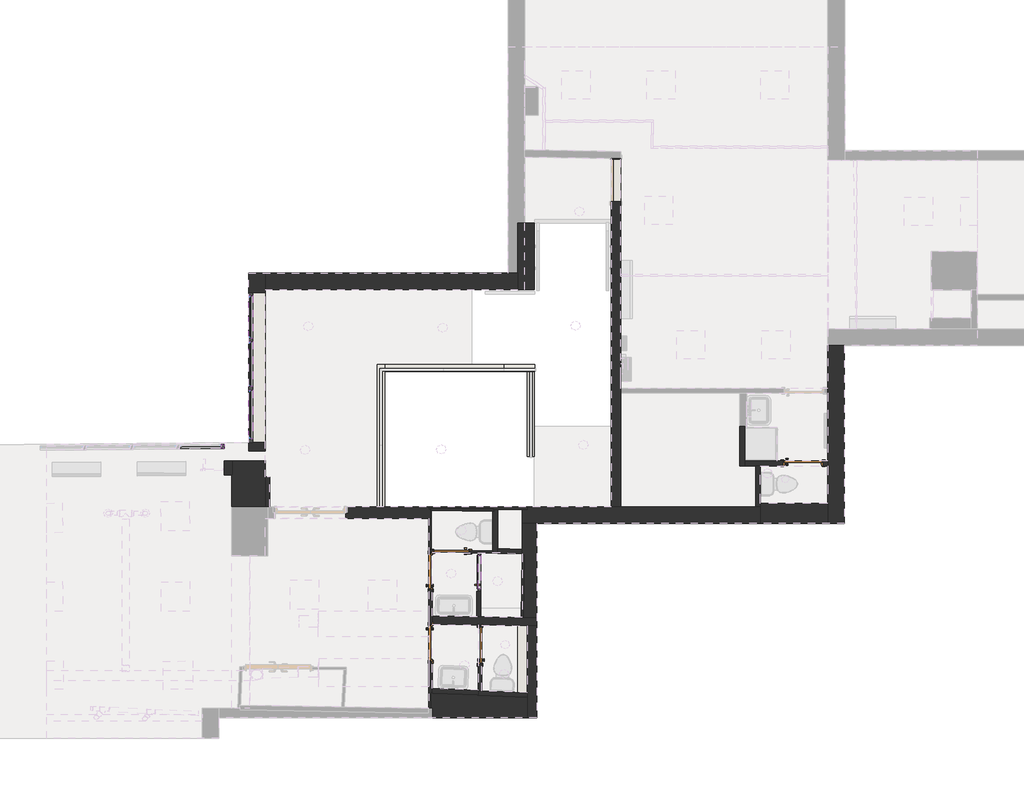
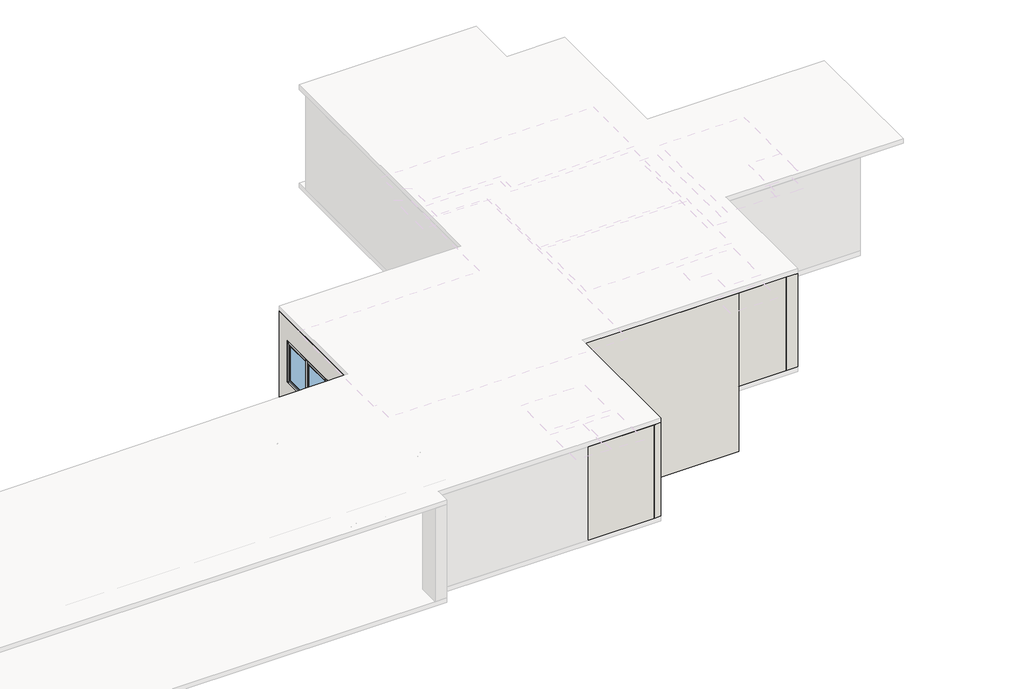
# One storey, part 3 of 8: 34 walls, 17 members, 6 doors, 3 windows.
"""IFC4 building model written with IfcOpenShell, lengths in millimetres."""

from ifc_helpers import new_model, si_unit, frame, origin, origin_with_axes, place, context, project, spatial, polyline, outline, extrude, faceted_brep, transform, mapped, element, save
from components import door_curtain_wall_single_glass_door_curtain_wall_single_83725fa1, door_36be590d, door_98bb46f0, door_880b1680, door_e4af89d0, door_20e234fa, member_7120eb7e, member_94745b14, member_0174ca3d, member_e39cbc11, member_24e91046, member_16dd25dd, member_4863c741, member_04a255ce, member_bc283e03, member_303bf657, curtain_wall_awning_curtain_wall_awning_2_1327c69f, curtain_wall_awning_curtain_wall_awning_2_5fe8b67b, curtain_wall_awning_curtain_wall_awning_2_be5c5add

model = new_model("IFC4")

# Units and contexts
model_context = context("Model", 3, world=origin())
ifc_project = project(units=[si_unit("LENGTHUNIT", "METRE", prefix="MILLI")], contexts=[model_context])

# Site, building, storey
site = spatial("IfcSite", under=ifc_project)
building = spatial("IfcBuilding", under=site)
storey = spatial("IfcBuildingStorey", under=building, Name="GFL", Elevation=0.0)

# Doors
placement = place(None, origin())
door_curtain_wall_single_glass_door_curtain_wall_single_shape = door_curtain_wall_single_glass_door_curtain_wall_single_83725fa1(model_context)
element("IfcDoor", 1, ObjectType="Door-Curtain-Wall-Single-Glass : Door-Curtain-Wall-Single-Glass", at=placement, inside=storey, context=model_context, shape_type="MappedRepresentation", body=[
    mapped(door_curtain_wall_single_glass_door_curtain_wall_single_shape, transform((-14157.9331047, 4549.3822669, 321.7526943), x_axis=(0.0, 1.0, 0.0), y_axis=(-1.0, 0.0, 0.0), z_axis=(0.0, 0.0, 1.0))),
])
door_shape = door_36be590d(model_context)
element("IfcDoor", 2, ObjectType="Door-Interior-Single-Flush_Panel-Wood : 2'5\" x 5'9\"", at=placement, inside=storey, context=model_context, shape_type="MappedRepresentation", body=[
    mapped(door_shape, transform((-14760.5386194, 4996.406889, 0.0), x_axis=(-0.999943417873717, 0.010637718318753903, 0.0), y_axis=(-0.010637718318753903, -0.999943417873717, 0.0), z_axis=(0.0, 0.0, 1.0))),
])
door_2_shape = door_98bb46f0(model_context)
element("IfcDoor", 3, ObjectType="Door-Interior-Single-Flush_Panel-Wood : 2'5\" x 5'9\"", at=placement, inside=storey, context=model_context, shape_type="MappedRepresentation", body=[
    mapped(door_2_shape, transform((-15206.7895713, 4564.5454184, 0.0), x_axis=(0.0, 1.0, 0.0), y_axis=(-1.0, 0.0, 0.0), z_axis=(0.0, 0.0, 1.0))),
])
door_3_shape = door_880b1680(model_context)
element("IfcDoor", 4, ObjectType="Door-Interior-Single-Flush_Panel-Wood : 2'5\" x 5'9\"", at=placement, inside=storey, context=model_context, shape_type="MappedRepresentation", body=[
    mapped(door_3_shape, transform((-15206.7895713, 3027.8454184, 0.0), x_axis=(0.0, -1.0, 0.0), y_axis=(1.0, 0.0, 0.0), z_axis=(0.0, 0.0, 1.0))),
])
door_4_shape = door_e4af89d0(model_context)
element("IfcDoor", 5, ObjectType="Door-Interior-Single-Flush_Panel-Wood : 2'8\" x 6'6\" 2", at=placement, inside=storey, context=model_context, shape_type="MappedRepresentation", body=[
    mapped(door_4_shape, transform((-14140.6305738, 2978.6506962, 0.0), x_axis=(0.0, 1.0, 0.0), y_axis=(-1.0, 0.0, 0.0), z_axis=(0.0, 0.0, 1.0))),
])
door_5_shape = door_20e234fa(model_context)
element("IfcDoor", 6, ObjectType="Door-Interior-Single-Flush_Panel-Wood : 2'8\" x 6'8\"", at=placement, inside=storey, context=model_context, shape_type="MappedRepresentation", body=[
    mapped(door_5_shape, transform((-7216.3227955, 6885.6360317, 0.0), x_axis=(1.0, 0.0, 0.0), y_axis=(0.0, 1.0, 0.0), z_axis=(0.0, 0.0, 1.0))),
])

# Members
member_shape = member_7120eb7e(model_context)
element("IfcMember", 7, ObjectType="Rectangular Mullion : 1\" x 2\" rectangular", at=placement, inside=storey, context=model_context, shape_type="MappedRepresentation", body=[
    mapped(member_shape, transform((-14157.9331047, 4910.2817949, 1959.4322848), x_axis=(0.0, 0.0, 1.0), y_axis=(1.0, 0.0, 0.0), z_axis=(0.0, 1.0, 0.0))),
])
element("IfcMember", 8, ObjectType="Rectangular Mullion : 1\" x 2\" rectangular", at=placement, inside=storey, context=model_context, shape_type="MappedRepresentation", body=[
    mapped(member_shape, transform((-14157.9331047, 4188.4827389, 270.9526943), x_axis=(0.0, 0.0, -1.0), y_axis=(1.0, 0.0, 0.0), z_axis=(0.0, -1.0, 0.0))),
])
member_2_shape = member_94745b14(model_context)
element("IfcMember", 9, ObjectType="Rectangular Mullion : 1\" x 2\" rectangular", at=placement, inside=storey, context=model_context, shape_type="MappedRepresentation", body=[
    mapped(member_2_shape, transform((-14157.9331047, 4137.6827389, 1959.4322848), x_axis=(0.0, -1.0, 0.0), y_axis=(1.0, 0.0, 0.0), z_axis=(0.0, 0.0, 1.0))),
])
element("IfcMember", 10, ObjectType="Rectangular Mullion : 1\" x 2\" rectangular", at=placement, inside=storey, context=model_context, shape_type="MappedRepresentation", body=[
    mapped(member_2_shape, transform((-14157.9331047, 4961.0817949, 270.9526943), x_axis=(0.0, 1.0, 0.0), y_axis=(1.0, 0.0, 0.0), z_axis=(0.0, 0.0, -1.0))),
])
member_3_shape = member_0174ca3d(model_context)
element("IfcMember", 11, ObjectType="Rectangular Mullion : 2.5\" x 5\" rectangular 2", at=placement, inside=storey, context=model_context, shape_type="MappedRepresentation", body=[
    mapped(member_3_shape, transform((-19632.5108173, 7246.8307722, 1519.2701837), x_axis=(0.999958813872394, 0.009075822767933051, 0.0), y_axis=(-0.009075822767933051, 0.999958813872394, 0.0), z_axis=(0.0, 0.0, 1.0))),
])
member_4_shape = member_e39cbc11(model_context)
element("IfcMember", 12, ObjectType="Rectangular Mullion : 2.5\" x 5\" rectangular 2", at=placement, inside=storey, context=model_context, shape_type="MappedRepresentation", body=[
    mapped(member_4_shape, transform((-19702.3579404, 7246.196826, 941.5427435), x_axis=(0.0, 0.0, -1.0), y_axis=(-0.009075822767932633, 0.999958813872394, 0.0), z_axis=(0.9999588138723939, 0.009075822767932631, 0.0))),
])
member_5_shape = member_24e91046(model_context)
element("IfcMember", 13, ObjectType="Rectangular Mullion : 2.5\" x 5\" rectangular 2", at=placement, inside=storey, context=model_context, shape_type="MappedRepresentation", body=[
    mapped(member_5_shape, transform((-19632.5108173, 7246.8307722, 2291.8788214), x_axis=(0.999958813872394, 0.009075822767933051, 0.0), y_axis=(-0.009075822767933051, 0.999958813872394, 0.0), z_axis=(0.0, 0.0, 1.0))),
])
member_6_shape = member_16dd25dd(model_context)
element("IfcMember", 14, ObjectType="Rectangular Mullion : 2.5\" x 5\" rectangular 2", at=placement, inside=storey, context=model_context, shape_type="MappedRepresentation", body=[
    mapped(member_6_shape, transform((-19067.6367691, 10483.6745008, 2317.4063228), x_axis=(0.0, 0.0, 1.0), y_axis=(1.0, 0.0, 0.0), z_axis=(0.0, 1.0, 0.0))),
])
element("IfcMember", 15, ObjectType="Rectangular Mullion : 2.5\" x 5\" rectangular 2", at=placement, inside=storey, context=model_context, shape_type="MappedRepresentation", body=[
    mapped(member_6_shape, transform((-19067.6367691, 9566.9256959, 966.5683954), x_axis=(0.0, 0.0, -1.0), y_axis=(1.0, 0.0, 0.0), z_axis=(0.0, -1.0, 0.0))),
])
member_7_shape = member_4863c741(model_context)
element("IfcMember", 16, ObjectType="Rectangular Mullion : 2.5\" x 5\" rectangular 2", at=placement, inside=storey, context=model_context, shape_type="MappedRepresentation", body=[
    mapped(member_7_shape, transform((-19067.6367691, 7405.5768909, 966.5683954), x_axis=(0.0, 0.0, -1.0), y_axis=(1.0, 0.0, 0.0), z_axis=(0.0, -1.0, 0.0))),
])
member_8_shape = member_04a255ce(model_context)
element("IfcMember", 17, ObjectType="Rectangular Mullion : 2.5\" x 5\" rectangular 2", at=placement, inside=storey, context=model_context, shape_type="MappedRepresentation", body=[
    mapped(member_8_shape, transform((-19067.6367691, 8529.5268909, 966.5683954), x_axis=(0.0, 0.0, -1.0), y_axis=(1.0, 0.0, 0.0), z_axis=(0.0, -1.0, 0.0))),
])
element("IfcMember", 18, ObjectType="Rectangular Mullion : 2.5\" x 5\" rectangular 2", at=placement, inside=storey, context=model_context, shape_type="MappedRepresentation", body=[
    mapped(member_7_shape, transform((-19067.6367691, 8459.6768909, 2317.4063228), x_axis=(0.0, 0.0, 1.0), y_axis=(1.0, 0.0, 0.0), z_axis=(0.0, 1.0, 0.0))),
])
element("IfcMember", 19, ObjectType="Rectangular Mullion : 2.5\" x 5\" rectangular 2", at=placement, inside=storey, context=model_context, shape_type="MappedRepresentation", body=[
    mapped(member_8_shape, transform((-19067.6367691, 9497.0756959, 2317.4063228), x_axis=(0.0, 0.0, 1.0), y_axis=(1.0, 0.0, 0.0), z_axis=(0.0, 1.0, 0.0))),
])
member_9_shape = member_bc283e03(model_context)
element("IfcMember", 20, ObjectType="Rectangular Mullion : 2.5\" x 5\" rectangular 2", at=placement, inside=storey, context=model_context, shape_type="MappedRepresentation", body=[
    mapped(member_9_shape, transform((-19067.6367691, 7335.7268909, 2317.4063228), x_axis=(0.0, -1.0, 0.0), y_axis=(1.0, 0.0, 0.0), z_axis=(0.0, 0.0, 1.0))),
])
element("IfcMember", 21, ObjectType="Rectangular Mullion : 2.5\" x 5\" rectangular 2", at=placement, inside=storey, context=model_context, shape_type="MappedRepresentation", body=[
    mapped(member_9_shape, transform((-19067.6367691, 10553.5245008, 966.5683954), x_axis=(0.0, 1.0, 0.0), y_axis=(1.0, 0.0, 0.0), z_axis=(0.0, 0.0, -1.0))),
])
member_10_shape = member_303bf657(model_context)
element("IfcMember", 22, ObjectType="Rectangular Mullion : 2.5\" x 5\" rectangular 2", at=placement, inside=storey, context=model_context, shape_type="MappedRepresentation", body=[
    mapped(member_10_shape, transform((-19067.6367691, 8491.4268909, 966.5683954), x_axis=(0.0, 1.0, 0.0), y_axis=(1.0, 0.0, 0.0), z_axis=(0.0, 0.0, -1.0))),
])
element("IfcMember", 23, ObjectType="Rectangular Mullion : 2.5\" x 5\" rectangular 2", at=placement, inside=storey, context=model_context, shape_type="MappedRepresentation", body=[
    mapped(member_10_shape, transform((-19067.6367691, 9528.8256959, 966.5683954), x_axis=(0.0, 1.0, 0.0), y_axis=(1.0, 0.0, 0.0), z_axis=(0.0, 0.0, -1.0))),
])

# Walls
element("IfcWall", 24, ObjectType="Generic - 12\"", at=placement, inside=storey, context=model_context, shape_type="Brep", body=[
    faceted_brep([(-13235.1145713, 5589.9585448, 3028.95), (-13235.1145713, 5589.9585448, 0.0), (-13235.1145713, 5040.4725323, 0.0), (-13235.1145713, 4938.824475, 0.0), (-13235.1145713, 4911.3165544, 0.0), (-13235.1145713, 4911.3165544, 3028.95), (-13235.1145713, 4938.824475, 3028.95), (-13235.1145713, 5040.4725323, 3028.95), (-12930.3145713, 3570.200863, 0.0), (-12930.3145713, 5589.9585448, 0.0), (-12930.3145713, 5589.9585448, 3028.95), (-12930.3145713, 3570.200863, 3028.95), (-13207.642979, 3574.4684236, 0.0), (-13184.0376044, 4926.7396906, 0.0), (-13234.8298664, 4927.6263251, 0.0), (-13207.642979, 3574.4684236, 3028.95), (-13234.8298664, 4927.6263251, 3028.95), (-13184.0376044, 4926.7396906, 3028.95)], [[[0, 1, 2, 3, 4, 5, 6, 7]], [[8, 9, 10, 11]], [[9, 8, 12, 13, 14, 4, 3, 2, 1]], [[1, 0, 10, 9]], [[8, 11, 15, 12]], [[14, 16, 5, 4]], [[17, 13, 12, 15]], [[16, 14, 13, 17]], [[11, 10, 0, 7, 6, 5, 16, 17, 15]]]),
])
element("IfcWall", 25, ObjectType="Generic - 14\"", at=placement, inside=storey, context=model_context, shape_type="Brep", body=[
    faceted_brep([(-12977.6791902, 10617.0245008, -983.6727273), (-12977.6791902, 10740.5508294, -983.6727273), (-12977.6791902, 12039.4245008, -145.3088121), (-12977.6791902, 12039.4245008, 3028.95), (-12977.6791902, 10617.0245008, 3028.95), (-13333.2791902, 10617.0245008, -983.6727273), (-13333.2791902, 10617.0245008, -806.6223107), (-13333.2791902, 10617.0245008, 3028.95), (-13333.2791902, 10972.6245008, 3028.95), (-13333.2791902, 12039.4245008, 3028.95), (-13333.2791902, 12039.4245008, 0.0), (-13333.2791902, 12039.4245008, -145.3088121), (-13333.2791902, 10740.5508294, -983.6727273), (-13180.8791902, 12039.4245008, 3028.95)], [[[0, 1, 2, 3, 4]], [[5, 6, 7, 8, 9, 10, 11, 12]], [[4, 3, 13, 9, 8, 7]], [[1, 0, 5, 12]], [[3, 2, 11, 10, 9, 13]], [[0, 4, 7, 6, 5]], [[2, 1, 12, 11]]]),
])
element("IfcWall", 26, ObjectType="Generic - 14\"", at=placement, inside=storey, context=model_context, shape_type="Brep", body=[
    faceted_brep([(-6682.9227955, 9413.6950658, 0.0), (-6682.9227955, 8491.1857327, 0.0), (-6682.9227955, 8389.5857327, 0.0), (-6682.9227955, 6933.2610317, 0.0), (-6682.9227955, 6831.6610317, 0.0), (-6682.9227955, 6021.7585448, 0.0), (-6682.9227955, 5589.9585448, 0.0), (-6682.9227955, 5589.9585448, 3028.95), (-6682.9227955, 6021.7585448, 3028.95), (-6682.9227955, 6831.6610317, 3028.95), (-6682.9227955, 6933.2610317, 3028.95), (-6682.9227955, 8389.5857327, 3028.95), (-6682.9227955, 8491.1857327, 3028.95), (-6682.9227955, 9413.6950658, 3028.95), (-6327.3227955, 9413.6950658, 0.0), (-6327.3227955, 9413.6950658, 3028.95), (-6327.3227955, 5589.9585448, 3028.95), (-6327.3227955, 5589.9585448, 0.0)], [[[0, 1, 2, 3, 4, 5, 6, 7, 8, 9, 10, 11, 12, 13]], [[14, 15, 16, 17]], [[0, 13, 15, 14]], [[7, 6, 17, 16]], [[6, 5, 4, 3, 2, 1, 0, 14, 17]], [[13, 12, 11, 10, 9, 8, 7, 16, 15]]]),
])
element("IfcWall", 27, ObjectType="Generic - 14\"", at=placement, inside=storey, context=model_context, shape_type="Brep", body=[
    faceted_brep([(-19112.0867691, 10972.6245008, 3028.95), (-19112.0867691, 10972.6245008, -152.4), (-19112.0867691, 7334.1131432, -152.4), (-19112.0867691, 7334.1131432, 0.0), (-19112.0867691, 7145.3261276, 0.0), (-19112.0867691, 7145.3261276, 3028.95), (-19112.0867691, 7334.1131432, 3028.95), (-19112.0867691, 10553.5245008, 2317.4063228), (-19112.0867691, 7335.7268909, 2317.4063228), (-19112.0867691, 7335.7268909, 966.5683954), (-19112.0867691, 10553.5245008, 966.5683954), (-18756.4867691, 10972.6245008, 3028.95), (-18756.4867691, 10617.0245008, 3028.95), (-18756.4867691, 7337.3406387, 3028.95), (-18756.4867691, 7145.3261276, 3028.95), (-18756.4867691, 7145.3261276, 0.0), (-18756.4867691, 7337.3406387, 0.0), (-18756.4867691, 10617.0245008, 0.0), (-18756.4867691, 10617.0245008, -152.4), (-18756.4867691, 10972.6245008, -152.4), (-18756.4867691, 7335.7268909, 2317.4063228), (-18756.4867691, 7337.3406387, 2317.4063228), (-18756.4867691, 10553.5245008, 2317.4063228), (-18756.4867691, 10553.5245008, 966.5683954), (-18756.4867691, 7337.3406387, 966.5683954), (-18756.4867691, 7335.7268909, 966.5683954), (-19067.6367691, 10617.0245008, -152.4), (-19067.6367691, 7334.5165801, -152.4), (-18934.2867691, 7335.7268909, 2317.4063228), (-18934.2867691, 7335.7268909, 966.5683954), (-19067.6367691, 7334.5165801, 0.0), (-19067.6367691, 10617.0245008, 0.0)], [[[0, 1, 2, 3, 4, 5, 6], [7, 8, 9, 10]], [[11, 12, 13, 14, 15, 16, 17, 18, 19], [20, 21, 22, 23, 24, 25]], [[1, 19, 18, 26, 27, 2]], [[14, 5, 4, 15]], [[1, 0, 11, 19]], [[7, 22, 21, 20, 28, 8]], [[22, 7, 10, 23]], [[23, 10, 9, 29, 25, 24]], [[8, 28, 20, 25, 29, 9]], [[14, 13, 12, 11, 0, 6, 5]], [[30, 31, 17, 16, 15, 4, 3]], [[27, 30, 3, 2]], [[31, 30, 27, 26]], [[31, 26, 18, 17]]]),
])
element("IfcWall", 28, ObjectType="Generic - 14\"", at=placement, inside=storey, context=model_context, shape_type="Brep", body=[
    faceted_brep([(-18756.4867691, 10617.0245008, -152.4), (-14245.7054637, 10617.0245008, -152.4), (-13333.2791902, 10617.0245008, -806.6223107), (-13333.2791902, 10617.0245008, 3028.95), (-18756.4867691, 10617.0245008, 3028.95), (-18756.4867691, 10617.0245008, 0.0), (-18756.4867691, 10972.6245008, -152.4), (-18756.4867691, 10972.6245008, 3028.95), (-13536.4791902, 10972.6245008, 3028.95), (-13333.2791902, 10972.6245008, 3028.95), (-13333.2791902, 10972.6245008, -806.6223107), (-14245.7054637, 10972.6245008, -152.4)], [[[0, 1, 2, 3, 4, 5]], [[6, 7, 8, 9, 10, 11]], [[0, 5, 4, 7, 6]], [[4, 3, 9, 8, 7]], [[3, 2, 10, 9]], [[1, 0, 6, 11]], [[2, 1, 11, 10]]]),
])
element("IfcWall", 29, ObjectType="Generic - 14\"", at=placement, inside=storey, context=model_context, shape_type="Brep", body=[
    faceted_brep([(-13235.1145713, 5589.9585448, -2108.2), (-8132.4684097, 5589.9585448, -2108.2), (-8132.4684097, 5589.9585448, -152.4), (-8132.4684097, 5589.9585448, 0.0), (-8132.4684097, 5589.9585448, 3028.95), (-12930.3145713, 5589.9585448, 3028.95), (-13235.1145713, 5589.9585448, 3028.95), (-13235.1145713, 5589.9585448, 0.0), (-8132.4684097, 5945.5585448, -2108.2), (-13235.1145713, 5945.5585448, -2108.2), (-13235.1145713, 5945.5585448, 0.0), (-13133.5145713, 5945.5585448, 0.0), (-13133.5145713, 5945.5585448, 3028.95), (-11333.1527068, 5945.5585448, 3028.95), (-11129.9527068, 5945.5585448, 3028.95), (-8234.0684097, 5945.5585448, 3028.95), (-8132.4684097, 5945.5585448, 3028.95), (-8132.4684097, 5945.5585448, 0.0), (-8132.4684097, 5945.5585448, -152.4), (-13133.5145713, 5894.7585448, 3028.95), (-13235.1145713, 5894.7585448, 3028.95), (-13235.1145713, 5894.7585448, 0.0), (-13133.5145713, 5894.7585448, 0.0)], [[[0, 1, 2, 3, 4, 5, 6, 7]], [[8, 9, 10, 11, 12, 13, 14, 15, 16, 17, 18]], [[1, 0, 9, 8]], [[4, 3, 2, 1, 8, 18, 17, 16]], [[6, 5, 4, 16, 15, 14, 13, 12, 19, 20]], [[0, 7, 6, 20, 21, 10, 9]], [[19, 22, 21, 20]], [[22, 11, 10, 21]], [[22, 19, 12, 11]]]),
])
element("IfcWall", 30, ObjectType="Generic - 17\"", at=placement, inside=storey, context=model_context, shape_type="Brep", body=[
    faceted_brep([(-8132.4684097, 5589.9585448, 0.0), (-6682.9227955, 5589.9585448, 0.0), (-6682.9227955, 5589.9585448, 3028.95), (-8132.4684097, 5589.9585448, 3028.95), (-8132.4684097, 6021.7585448, 0.0), (-8132.4684097, 6021.7585448, 3028.95), (-6682.9227955, 6021.7585448, 3028.95), (-6682.9227955, 6021.7585448, 0.0), (-8132.4684097, 5945.5585448, 0.0), (-8132.4684097, 5945.5585448, 3028.95)], [[[0, 1, 2, 3]], [[4, 5, 6, 7]], [[1, 0, 8, 4, 7]], [[2, 1, 7, 6]], [[0, 3, 9, 5, 4, 8]], [[3, 2, 6, 5, 9]]]),
])
element("IfcWall", 31, ObjectType="Generic - 19.5\" 2", at=placement, inside=storey, context=model_context, shape_type="SweptSolid", body=[
    extrude(outline(polyline([(-13133.5145713, 1859.359379), (-13133.5145713, 1421.2954184), (-15165.5145713, 1421.2954184), (-15165.5145713, 1624.4954184), (-15190.9145713, 1624.4954184), (-15190.9145713, 1954.6954184), (-15165.5145713, 1954.6954184), (-15165.5145713, 1949.3529579), (-14203.125504, 1909.7379648), (-14203.386448, 1903.3987061), (-13133.5145713, 1859.359379)])), origin_with_axes(), (0.0, 0.0, 1.0), 3028.95),
])
element("IfcWall", 32, ObjectType="Generic - 2\"", at=placement, inside=storey, context=model_context, shape_type="SweptSolid", body=[
    extrude(outline(polyline([(-15190.9145713, 5023.2116238), (-15241.7145713, 5023.7520505), (-15241.7145713, 5704.2585448), (-15216.3145713, 5704.2585448), (-15216.3145713, 5894.7585448), (-15210.0812826, 5894.7585448), (-15210.4078624, 5876.0488015), (-15190.9145713, 5875.7085448), (-15190.9145713, 5023.2116238)])), origin_with_axes(), (0.0, 0.0, 1.0), 3028.95),
])
element("IfcWall", 33, ObjectType="Generic - 2\"", at=placement, inside=storey, context=model_context, shape_type="Brep", body=[
    faceted_brep([(-15241.7145713, 5894.7585448, 3028.95), (-15241.7145713, 5894.7585448, 0.0), (-15216.3145713, 5894.7585448, 0.0), (-15210.0812826, 5894.7585448, 0.0), (-15210.0812826, 5894.7585448, 3028.95), (-15216.3145713, 5894.7585448, 3028.95), (-13133.5145713, 5894.7585448, 0.0), (-13133.5145713, 5894.7585448, 3028.95), (-13235.1145713, 5894.7585448, 3028.95), (-13768.5145713, 5894.7585448, 3028.95), (-13851.2135824, 5894.7585448, 3028.95), (-13851.2135824, 5894.7585448, 0.0), (-13768.5145713, 5894.7585448, 0.0), (-13235.1145713, 5894.7585448, 0.0), (-13133.5145713, 5945.5585448, 0.0), (-13235.1145713, 5945.5585448, 0.0), (-15241.7145713, 5945.5585448, 0.0), (-15241.7145713, 5945.5585448, 3028.95), (-13133.5145713, 5945.5585448, 3028.95), (-13851.0674727, 5903.129165, 0.0), (-15209.5212801, 5926.8410644, 0.0), (-15209.5212801, 5926.8410644, 3028.95), (-13851.0674727, 5903.129165, 3028.95)], [[[0, 1, 2, 3, 4, 5]], [[6, 7, 8, 9, 10, 11, 12, 13]], [[14, 15, 16, 17, 18]], [[16, 15, 14, 6, 13, 12, 11, 19, 20, 3, 2, 1]], [[7, 6, 14, 18]], [[1, 0, 17, 16]], [[21, 20, 19, 22]], [[22, 19, 11, 10]], [[20, 21, 4, 3]], [[7, 18, 17, 0, 5, 4, 21, 22, 10, 9, 8]]]),
])
element("IfcWall", 34, ObjectType="Generic - 2\"", at=placement, inside=storey, context=model_context, shape_type="Brep", body=[
    faceted_brep([(-13234.8298664, 4927.6263251, 0.0), (-13235.1145713, 4911.3165544, 0.0), (-13258.4370741, 3575.2500488, 0.0), (-13258.4370741, 3575.2500488, 3028.95), (-13235.1145713, 4911.3165544, 3028.95), (-13234.8298664, 4927.6263251, 3028.95), (-13184.0376044, 4926.7396906, 0.0), (-13184.0376044, 4926.7396906, 3028.95), (-13207.642979, 3574.4684236, 3028.95), (-13207.642979, 3574.4684236, 0.0)], [[[0, 1, 2, 3, 4, 5]], [[6, 7, 8, 9]], [[2, 1, 0, 6, 9]], [[0, 5, 7, 6]], [[2, 9, 8, 3]], [[5, 4, 3, 8, 7]]]),
])
element("IfcWall", 35, ObjectType="Generic - 2\"", at=placement, inside=storey, context=model_context, shape_type="Brep", body=[
    faceted_brep([(-13870.1145713, 4958.3576559, 0.0), (-13870.1145713, 4958.3576559, 2222.5), (-13870.1145713, 4958.3576559, 2279.65), (-13870.1145713, 4958.3576559, 3028.95), (-15165.5145713, 4972.1385359, 3028.95), (-15241.7145713, 4972.9491759, 3028.95), (-15241.7145713, 4972.9491759, 0.0), (-15165.5145713, 4972.1385359, 0.0), (-15154.5203158, 4972.0215755, 0.0), (-15154.5203158, 4972.0215755, 1778.0), (-14367.1648686, 4963.6454361, 1778.0), (-14367.1648686, 4963.6454361, 0.0), (-13870.1145713, 5009.1605304, 3028.95), (-13870.1145713, 5009.1605304, 2279.65), (-13870.1145713, 5009.1605304, 2222.5), (-13870.1145713, 5009.1605304, 0.0), (-14366.6244725, 5014.4425617, 0.0), (-14366.6244725, 5014.4425617, 1778.0), (-15153.9799197, 5022.8187011, 1778.0), (-15153.9799197, 5022.8187011, 0.0), (-15190.9145713, 5023.2116238, 0.0), (-15241.7145713, 5023.7520505, 0.0), (-15241.7145713, 5023.7520505, 3028.95), (-15190.9145713, 5023.2116238, 3028.95)], [[[0, 1, 2, 3, 4, 5, 6, 7, 8, 9, 10, 11]], [[12, 13, 14, 15, 16, 17, 18, 19, 20, 21, 22, 23]], [[15, 0, 11, 16]], [[6, 21, 20, 19, 8, 7]], [[3, 2, 1, 0, 15, 14, 13, 12]], [[6, 5, 22, 21]], [[18, 9, 8, 19]], [[9, 18, 17, 10]], [[10, 17, 16, 11]], [[5, 4, 3, 12, 23, 22]]]),
])
element("IfcWall", 36, ObjectType="Generic - 2\"", at=placement, inside=storey, context=model_context, shape_type="Brep", body=[
    faceted_brep([(-15210.4078624, 5876.0488015, 0.0), (-15190.9145713, 5875.7085448, 0.0), (-13870.1145713, 5852.653895, 0.0), (-13851.9540549, 5852.336902, 0.0), (-13851.9540549, 5852.336902, 3028.95), (-13870.1145713, 5852.653895, 3028.95), (-15190.9145713, 5875.7085448, 3028.95), (-15210.4078624, 5876.0488015, 3028.95), (-15209.5212801, 5926.8410644, 0.0), (-15209.5212801, 5926.8410644, 3028.95), (-13851.0674727, 5903.129165, 3028.95), (-13851.0674727, 5903.129165, 0.0), (-15210.0812826, 5894.7585448, 0.0), (-13851.2135824, 5894.7585448, 0.0), (-13851.2135824, 5894.7585448, 3028.95), (-15210.0812826, 5894.7585448, 3028.95)], [[[0, 1, 2, 3, 4, 5, 6, 7]], [[8, 9, 10, 11]], [[3, 2, 1, 0, 12, 8, 11, 13]], [[4, 3, 13, 11, 10, 14]], [[0, 7, 15, 9, 8, 12]], [[7, 6, 5, 4, 14, 10, 9, 15]]]),
])
element("IfcWall", 37, ObjectType="Generic - 3\"", at=placement, inside=storey, context=model_context, shape_type="Brep", body=[
    faceted_brep([(-14105.7055738, 3410.4668617, 0.0), (-14105.7055738, 3410.4668617, 3028.95), (-14105.7055738, 2001.0638903, 3028.95), (-14105.7055738, 2001.0638903, 0.0), (-14105.7055738, 2572.2506962, 0.0), (-14105.7055738, 2572.2506962, 2006.6), (-14105.7055738, 3385.0506962, 2006.6), (-14105.7055738, 3385.0506962, 0.0), (-14181.9055738, 3411.6394359, 3028.95), (-14181.9055738, 3411.6394359, 0.0), (-14181.9055738, 3385.0506962, 0.0), (-14181.9055738, 3385.0506962, 2006.6), (-14181.9055738, 2572.2506962, 2006.6), (-14181.9055738, 2572.2506962, 0.0), (-14181.9055738, 2010.5505245, 0.0), (-14181.9055738, 2004.2005245, 0.0), (-14181.9055738, 2004.2005245, 3028.95), (-14181.9055738, 2010.5505245, 3028.95)], [[[0, 1, 2, 3, 4, 5, 6, 7]], [[8, 9, 10, 11, 12, 13, 14, 15, 16, 17]], [[9, 0, 7, 10]], [[3, 15, 14, 13, 4]], [[1, 0, 9, 8]], [[3, 2, 16, 15]], [[6, 11, 10, 7]], [[11, 6, 5, 12]], [[12, 5, 4, 13]], [[2, 1, 8, 17, 16]]]),
])
element("IfcWall", 38, ObjectType="Generic - 3\"", at=placement, inside=storey, context=model_context, shape_type="Brep", body=[
    faceted_brep([(-15241.7145713, 2634.1454184, 0.0), (-15241.7145713, 1624.4954184, 0.0), (-15241.7145713, 1624.4954184, 3028.95), (-15241.7145713, 4972.9491759, 3028.95), (-15241.7145713, 4972.9491759, 0.0), (-15241.7145713, 4958.2454184, 0.0), (-15241.7145713, 4958.2454184, 1778.0), (-15241.7145713, 4170.8454184, 1778.0), (-15241.7145713, 4170.8454184, 0.0), (-15241.7145713, 3421.5454184, 0.0), (-15241.7145713, 3421.5454184, 1778.0), (-15241.7145713, 2634.1454184, 1778.0), (-15165.5145713, 2634.1454184, 0.0), (-15165.5145713, 2634.1454184, 1778.0), (-15165.5145713, 3421.5454184, 1778.0), (-15165.5145713, 3421.5454184, 0.0), (-15165.5145713, 3426.7753213, 0.0), (-15165.5145713, 3604.5963711, 0.0), (-15165.5145713, 4170.8454184, 0.0), (-15165.5145713, 4170.8454184, 1778.0), (-15165.5145713, 4958.2454184, 1778.0), (-15165.5145713, 4958.2454184, 0.0), (-15165.5145713, 4972.1385359, 0.0), (-15165.5145713, 4972.1385359, 3028.95), (-15165.5145713, 3604.5963711, 3028.95), (-15165.5145713, 3426.7753213, 3028.95), (-15165.5145713, 2051.0389974, 3028.95), (-15165.5145713, 1954.6954184, 3028.95), (-15165.5145713, 1954.6954184, 0.0), (-15165.5145713, 2051.0389974, 0.0), (-15190.9145713, 1954.6954184, 0.0), (-15190.9145713, 1624.4954184, 0.0), (-15190.9145713, 1954.6954184, 3028.95), (-15190.9145713, 1624.4954184, 3028.95)], [[[0, 1, 2, 3, 4, 5, 6, 7, 8, 9, 10, 11]], [[12, 13, 14, 15, 16, 17, 18, 19, 20, 21, 22, 23, 24, 25, 26, 27, 28, 29]], [[1, 0, 12, 29, 28, 30, 31]], [[15, 9, 8, 18, 17, 16]], [[4, 22, 21, 5]], [[11, 13, 12, 0]], [[13, 11, 10, 14]], [[14, 10, 9, 15]], [[32, 30, 28, 27]], [[30, 32, 33, 31]], [[4, 3, 23, 22]], [[20, 6, 5, 21]], [[6, 20, 19, 7]], [[7, 19, 18, 8]], [[2, 1, 31, 33]], [[3, 2, 33, 32, 27, 26, 25, 24, 23]]]),
])
element("IfcWall", 39, ObjectType="Generic - 4\"", at=placement, inside=storey, context=model_context, shape_type="Brep", body=[
    faceted_brep([(-8471.9230269, 6831.6610317, 3028.95), (-8471.9230269, 6831.6610317, 0.0), (-8234.0684097, 6831.6610317, 0.0), (-8132.4684097, 6831.6610317, 0.0), (-7648.1227955, 6831.6610317, 0.0), (-7648.1227955, 6831.6610317, 2057.4), (-6784.5227955, 6831.6610317, 2057.4), (-6784.5227955, 6831.6610317, 0.0), (-6682.9227955, 6831.6610317, 0.0), (-6682.9227955, 6831.6610317, 3028.95), (-8132.4684097, 6831.6610317, 3028.95), (-8234.0684097, 6831.6610317, 3028.95), (-8471.9230269, 6933.2610317, 0.0), (-8471.9230269, 6933.2610317, 3028.95), (-6682.9227955, 6933.2610317, 3028.95), (-6682.9227955, 6933.2610317, 0.0), (-6784.5227955, 6933.2610317, 0.0), (-6784.5227955, 6933.2610317, 2057.4), (-7648.1227955, 6933.2610317, 2057.4), (-7648.1227955, 6933.2610317, 0.0)], [[[0, 1, 2, 3, 4, 5, 6, 7, 8, 9, 10, 11]], [[12, 13, 14, 15, 16, 17, 18, 19]], [[1, 12, 19, 4, 3, 2]], [[15, 8, 7, 16]], [[1, 0, 13, 12]], [[9, 8, 15, 14]], [[6, 17, 16, 7]], [[17, 6, 5, 18]], [[18, 5, 4, 19]], [[0, 11, 10, 9, 14, 13]]]),
])
element("IfcWall", 40, ObjectType="Generic - 4\"", at=placement, inside=storey, context=model_context, shape_type="Brep", body=[
    faceted_brep([(-8234.0684097, 6831.6610317, 0.0), (-8234.0684097, 5945.5585448, 0.0), (-8234.0684097, 5945.5585448, 3028.95), (-8234.0684097, 6831.6610317, 3028.95), (-8132.4684097, 6831.6610317, 0.0), (-8132.4684097, 6831.6610317, 3028.95), (-8132.4684097, 6021.7585448, 3028.95), (-8132.4684097, 5945.5585448, 3028.95), (-8132.4684097, 5945.5585448, 0.0), (-8132.4684097, 6021.7585448, 0.0)], [[[0, 1, 2, 3]], [[4, 5, 6, 7, 8, 9]], [[1, 0, 4, 9, 8]], [[2, 1, 8, 7]], [[0, 3, 5, 4]], [[3, 2, 7, 6, 5]]]),
])
element("IfcWall", 41, ObjectType="Generic - 4\"", at=placement, inside=storey, context=model_context, shape_type="Brep", body=[
    faceted_brep([(-8573.5230269, 7669.8610317, 0.0), (-8573.5230269, 6831.6610317, 0.0), (-8573.5230269, 6831.6610317, 3028.95), (-8573.5230269, 7669.8610317, 3028.95), (-8471.9230269, 7669.8610317, 0.0), (-8471.9230269, 7669.8610317, 3028.95), (-8471.9230269, 6933.2610317, 3028.95), (-8471.9230269, 6831.6610317, 3028.95), (-8471.9230269, 6831.6610317, 0.0), (-8471.9230269, 6933.2610317, 0.0), (-8471.9230269, 7657.1610317, 0.0)], [[[0, 1, 2, 3]], [[4, 5, 6, 7, 8, 9, 10]], [[1, 0, 4, 10, 9, 8]], [[0, 3, 5, 4]], [[2, 1, 8, 7]], [[3, 2, 7, 6, 5]]]),
])
element("IfcWall", 42, ObjectType="Generic - 4\"", at=placement, inside=storey, context=model_context, shape_type="Brep", body=[
    faceted_brep([(-13133.5145713, 1961.0454184, 3028.95), (-13133.5145713, 1961.0454184, 0.0), (-14105.7055738, 2001.0638903, 0.0), (-14181.9055738, 2004.2005245, 0.0), (-14181.9055738, 2004.2005245, 3028.95), (-14105.7055738, 2001.0638903, 3028.95), (-14203.386448, 1903.3987061, 0.0), (-13133.5145713, 1859.359379, 0.0), (-13133.5145713, 1859.359379, 3028.95), (-14203.386448, 1903.3987061, 3028.95), (-14203.125504, 1909.7379648, 0.0), (-14181.9055738, 1908.8644851, 0.0), (-14203.125504, 1909.7379648, 3028.95), (-14181.9055738, 1908.8644851, 3028.95)], [[[0, 1, 2, 3, 4, 5]], [[6, 7, 8, 9]], [[7, 6, 10, 11, 3, 2, 1]], [[6, 9, 12, 10]], [[1, 0, 8, 7]], [[13, 11, 10, 12]], [[11, 13, 4, 3]], [[9, 8, 0, 5, 4, 13, 12]]]),
])
element("IfcWall", 43, ObjectType="Generic - 4\"", at=placement, inside=storey, context=model_context, shape_type="Brep", body=[
    faceted_brep([(-13870.1145713, 4958.3576559, 0.0), (-13870.1145713, 4958.3576559, 3028.95), (-13870.1145713, 5009.1605304, 3028.95), (-13870.1145713, 5852.653895, 3028.95), (-13870.1145713, 5852.653895, 0.0), (-13870.1145713, 5009.1605304, 0.0), (-13768.5145713, 4955.2323469, 0.0), (-13768.5145713, 5056.8804042, 0.0), (-13768.5145713, 5894.7585448, 0.0), (-13768.5145713, 5894.7585448, 3028.95), (-13768.5145713, 5056.8804042, 3028.95), (-13768.5145713, 4955.2323469, 3028.95), (-13851.9540549, 5852.336902, 0.0), (-13851.2135824, 5894.7585448, 0.0), (-13851.2135824, 5894.7585448, 3028.95), (-13851.9540549, 5852.336902, 3028.95)], [[[0, 1, 2, 3, 4, 5]], [[6, 7, 8, 9, 10, 11]], [[8, 7, 6, 0, 5, 4, 12, 13]], [[9, 8, 13, 14]], [[1, 0, 6, 11]], [[12, 15, 14, 13]], [[15, 12, 4, 3]], [[1, 11, 10, 9, 14, 15, 3, 2]]]),
])
element("IfcWall", 44, ObjectType="Generic - 4\"", at=placement, inside=storey, context=model_context, shape_type="SweptSolid", body=[
    extrude(outline(polyline([(-13235.1145713, 4938.824475), (-13768.5145713, 4955.2323469), (-13768.5145713, 5056.8804042), (-13235.1145713, 5040.4725323), (-13235.1145713, 4938.824475)])), origin_with_axes(), (0.0, 0.0, 1.0), 3028.95),
])
element("IfcWall", 45, ObjectType="Generic - 4\"", at=placement, inside=storey, context=model_context, shape_type="Brep", body=[
    faceted_brep([(-14181.9055738, 2010.5505245, 0.0), (-15165.5145713, 2051.0389974, 0.0), (-15165.5145713, 2051.0389974, 3028.95), (-14181.9055738, 2010.5505245, 3028.95), (-14181.9055738, 1908.8644851, 0.0), (-14181.9055738, 1908.8644851, 3028.95), (-14203.125504, 1909.7379648, 3028.95), (-15165.5145713, 1949.3529579, 3028.95), (-15165.5145713, 1949.3529579, 0.0), (-14203.125504, 1909.7379648, 0.0), (-14181.9055738, 2004.2005245, 0.0), (-15165.5145713, 1954.6954184, 0.0), (-15165.5145713, 1954.6954184, 3028.95), (-14181.9055738, 2004.2005245, 3028.95)], [[[0, 1, 2, 3]], [[4, 5, 6, 7, 8, 9]], [[1, 0, 10, 4, 9, 8, 11]], [[2, 1, 11, 8, 7, 12]], [[0, 3, 13, 5, 4, 10]], [[3, 2, 12, 7, 6, 5, 13]]]),
])
element("IfcWall", 46, ObjectType="Generic - 4\"", at=placement, inside=storey, context=model_context, shape_type="Brep", body=[
    faceted_brep([(-18755.7525663, 6586.391239, 0.0), (-18755.7525663, 5945.5585448, 0.0), (-18755.7525663, 5945.5585448, 3028.95), (-18755.7525663, 6586.391239, 3028.95), (-18654.1525663, 6586.391239, 0.0), (-18654.1525663, 6586.391239, 3028.95), (-18654.1525663, 5945.5585448, 3028.95), (-18654.1525663, 5945.5585448, 0.0), (-18704.9525663, 5945.5585448, 0.0), (-18704.9525663, 5945.5585448, 3028.95)], [[[0, 1, 2, 3]], [[4, 5, 6, 7]], [[1, 0, 4, 7, 8]], [[0, 3, 5, 4]], [[2, 1, 8, 7, 6, 9]], [[3, 2, 9, 6, 5]]]),
])
element("IfcWall", 47, ObjectType="Generic - 4\" 2", at=placement, inside=storey, context=model_context, shape_type="SweptSolid", body=[
    extrude(outline(polyline([(-14220.1631047, 3590.0491968), (-14220.1631047, 4137.6827389), (-14126.1831047, 4137.6827389), (-14126.1831047, 3588.603022), (-14220.1631047, 3590.0491968)])), origin_with_axes(), (0.0, 0.0, 1.0), 3028.95),
])
element("IfcWall", 48, ObjectType="Generic - 6\"", at=placement, inside=storey, context=model_context, shape_type="Brep", body=[
    faceted_brep([(-16194.3493213, 5945.5585448, 0.0), (-16194.3493213, 9009.2921755, 0.0), (-16194.3493213, 9009.2921755, 583.6621589), (-16194.3493213, 8856.8921755, 583.6621589), (-16194.3493213, 5945.5585448, 583.6621589), (-16346.7493213, 5945.5585448, 0.0), (-16346.7493213, 5945.5585448, 583.6621589), (-16346.7493213, 9009.2921755, 583.6621589), (-16346.7493213, 9009.2921755, 0.0)], [[[0, 1, 2, 3, 4]], [[5, 6, 7, 8]], [[1, 0, 5, 8]], [[4, 3, 2, 7, 6]], [[0, 4, 6, 5]], [[2, 1, 8, 7]]]),
])
element("IfcWall", 49, ObjectType="Generic - 6\"", at=placement, inside=storey, context=model_context, shape_type="Brep", body=[
    faceted_brep([(-12968.5493213, 9009.2921755, -1075.163001), (-14255.5020781, 9009.2921755, -152.4), (-16194.3493213, 9009.2921755, -152.4), (-16194.3493213, 9009.2921755, 0.0), (-16194.3493213, 9009.2921755, 583.6621589), (-13641.3067045, 9009.2921755, 583.6621589), (-12968.5493213, 9009.2921755, 163.2766889), (-12968.5493213, 8856.8921755, -1075.163001), (-12968.5493213, 8856.8921755, 163.2766889), (-13641.3067045, 8856.8921755, 583.6621589), (-16194.3493213, 8856.8921755, 583.6621589), (-16194.3493213, 8856.8921755, -152.4), (-14255.5020781, 8856.8921755, -152.4)], [[[0, 1, 2, 3, 4, 5, 6]], [[7, 8, 9, 10, 11, 12]], [[4, 3, 2, 11, 10]], [[5, 4, 10, 9]], [[0, 6, 8, 7]], [[1, 0, 7, 12]], [[2, 1, 12, 11]], [[6, 5, 9, 8]]]),
])
element("IfcWall", 50, ObjectType="Generic - 6\"", at=placement, inside=storey, context=model_context, shape_type="SweptSolid", body=[
    extrude(outline(polyline([(7028.0921755, -2107.1237351), (7028.0921755, -1587.5471241), (8856.8921755, -407.1398514), (8856.8921755, -1040.2380253), (7203.9706532, -2107.1237351), (7028.0921755, -2107.1237351)])), frame((-13130.0791902, 0.0, 0.0), z_axis=(1.0, 0.0, 0.0), x_axis=(0.0, 1.0, 0.0)), (0.0, 0.0, 1.0), 152.4),
])
element("IfcWall", 51, ObjectType="Generic - 7\"", at=placement, inside=storey, context=model_context, shape_type="Brep", body=[
    faceted_brep([(-15165.5145713, 3426.7753213, 0.0), (-14181.9055738, 3411.6394359, 0.0), (-14105.7055738, 3410.4668617, 0.0), (-13133.5145713, 3395.5066776, 0.0), (-12930.3145713, 3392.3798133, 0.0), (-12930.3145713, 3392.3798133, 3028.95), (-13133.5145713, 3395.5066776, 3028.95), (-14105.7055738, 3410.4668617, 3028.95), (-14181.9055738, 3411.6394359, 3028.95), (-15165.5145713, 3426.7753213, 3028.95), (-15165.5145713, 3604.5963711, 0.0), (-15165.5145713, 3604.5963711, 3028.95), (-14220.1631047, 3590.0491968, 3028.95), (-14126.1831047, 3588.603022, 3028.95), (-13258.4370741, 3575.2500488, 3028.95), (-13207.642979, 3574.4684236, 3028.95), (-12930.3145713, 3570.200863, 3028.95), (-12930.3145713, 3570.200863, 0.0), (-13207.642979, 3574.4684236, 0.0), (-13258.4370741, 3575.2500488, 0.0), (-14126.1831047, 3588.603022, 0.0), (-14220.1631047, 3590.0491968, 0.0)], [[[0, 1, 2, 3, 4, 5, 6, 7, 8, 9]], [[10, 11, 12, 13, 14, 15, 16, 17, 18, 19, 20, 21]], [[4, 3, 2, 1, 0, 10, 21, 20, 19, 18, 17]], [[0, 9, 11, 10]], [[5, 4, 17, 16]], [[9, 8, 7, 6, 5, 16, 15, 14, 13, 12, 11]]]),
])
element("IfcWall", 52, ObjectType="Generic - 7\"", at=placement, inside=storey, context=model_context, shape_type="Brep", body=[
    faceted_brep([(-19629.6869249, 6935.6990868, 0.0), (-19629.6869249, 6630.8990868, 0.0), (-19629.6869249, 6630.8990868, 3028.95), (-19629.6869249, 6935.6990868, 3028.95), (-19451.8869249, 6937.3128345, 0.0), (-19451.8869249, 6937.3128345, 3028.95), (-19451.8869249, 6630.8990868, 3028.95), (-19451.8869249, 6630.8990868, 0.0), (-19466.9525663, 6630.8990868, 0.0)], [[[0, 1, 2, 3]], [[4, 5, 6, 7]], [[1, 0, 4, 7, 8]], [[2, 1, 8, 7, 6]], [[0, 3, 5, 4]], [[3, 2, 6, 5]]]),
])
element("IfcWall", 53, ObjectType="Generic - 8\"", at=placement, inside=storey, context=model_context, shape_type="Brep", body=[
    faceted_brep([(-11333.1527068, 13429.5579891, -152.4), (-11333.1527068, 12039.4245008, -152.4), (-11333.1527068, 12028.4381533, -152.4), (-11333.1527068, 10465.0860406, -1161.4727273), (-11333.1527068, 8663.0218218, -1161.4727273), (-11333.1527068, 7672.0357327, -1801.109203), (-11333.1527068, 7672.0357327, -2105.2092844), (-11333.1527068, 5945.5585448, -2105.2092844), (-11333.1527068, 5945.5585448, 3028.95), (-11333.1527068, 13429.5579891, 3028.95), (-11333.1527068, 13429.5579891, 0.0), (-11333.1527068, 12504.3857327, 0.0), (-11333.1527068, 13418.7857327, 0.0), (-11333.1527068, 13418.7857327, 2006.6), (-11333.1527068, 12504.3857327, 2006.6), (-11129.9527068, 13426.1416885, -152.4), (-11129.9527068, 13426.1416885, 0.0), (-11129.9527068, 13426.1416885, 3028.95), (-11129.9527068, 8491.1857327, 3028.95), (-11129.9527068, 8389.5857327, 3028.95), (-11129.9527068, 5945.5585448, 3028.95), (-11129.9527068, 5945.5585448, 0.0), (-11129.9527068, 5945.5585448, -152.4), (-11129.9527068, 5945.5585448, -2105.2092844), (-11129.9527068, 7672.0357327, -2105.2092844), (-11129.9527068, 7672.0357327, -1801.109203), (-11129.9527068, 8663.0218218, -1161.4727273), (-11129.9527068, 10465.0860406, -1161.4727273), (-11129.9527068, 12028.4381533, -152.4), (-11129.9527068, 12504.3857327, 0.0), (-11129.9527068, 12504.3857327, 2006.6), (-11129.9527068, 13418.7857327, 2006.6), (-11129.9527068, 13418.7857327, 0.0)], [[[0, 1, 2, 3, 4, 5, 6, 7, 8, 9, 10], [11, 12, 13, 14]], [[15, 16, 17, 18, 19, 20, 21, 22, 23, 24, 25, 26, 27, 28], [29, 30, 31, 32]], [[0, 10, 9, 17, 16, 15]], [[8, 7, 23, 22, 21, 20]], [[12, 11, 29, 32]], [[13, 12, 32, 31]], [[14, 13, 31, 30]], [[11, 14, 30, 29]], [[9, 8, 20, 19, 18, 17]], [[7, 6, 24, 23]], [[2, 1, 0, 15, 28]], [[3, 2, 28, 27]], [[4, 3, 27, 26]], [[5, 4, 26, 25]], [[6, 5, 25, 24]]]),
])
element("IfcWall", 54, ObjectType="Generic - 8\"", at=placement, inside=storey, context=model_context, shape_type="Brep", body=[
    faceted_brep([(-13133.5145713, 3395.5066776, 0.0), (-13133.5145713, 1961.0454184, 0.0), (-13133.5145713, 1859.359379, 0.0), (-13133.5145713, 1421.2954184, 0.0), (-13133.5145713, 1421.2954184, 3028.95), (-13133.5145713, 1859.359379, 3028.95), (-13133.5145713, 1961.0454184, 3028.95), (-13133.5145713, 3395.5066776, 3028.95), (-12930.3145713, 3392.3798133, 0.0), (-12930.3145713, 3392.3798133, 3028.95), (-12930.3145713, 1421.2954184, 3028.95), (-12930.3145713, 1421.2954184, 0.0)], [[[0, 1, 2, 3, 4, 5, 6, 7]], [[8, 9, 10, 11]], [[3, 2, 1, 0, 8, 11]], [[4, 3, 11, 10]], [[0, 7, 9, 8]], [[7, 6, 5, 4, 10, 9]]]),
])
element("IfcWall", 55, ObjectType="Generic - 8\"", at=placement, inside=storey, context=model_context, shape_type="SweptSolid", body=[
    extrude(outline(polyline([(-13336.7145713, 1969.4097763), (-13336.7145713, 3398.633542), (-13133.5145713, 3395.5066776), (-13133.5145713, 1961.0454184), (-13336.7145713, 1969.4097763)])), origin_with_axes(), (0.0, 0.0, 1.0), 326.23125),
])
element("IfcWall", 56, ObjectType="Generic - 9.5\"", at=placement, inside=storey, context=model_context, shape_type="Brep", body=[
    faceted_brep([(-17029.2867691, 5704.2585448, 0.0), (-15241.7145713, 5704.2585448, 0.0), (-15216.3145713, 5704.2585448, 0.0), (-15216.3145713, 5704.2585448, 3028.95), (-15241.7145713, 5704.2585448, 3028.95), (-17022.9367691, 5704.2585448, 3028.95), (-17022.9367691, 5704.2585448, 2012.95), (-17029.2867691, 5704.2585448, 2012.95), (-16972.1367691, 5945.5585448, 0.0), (-16972.1367691, 5945.5585448, 2006.6), (-17029.2867691, 5945.5585448, 2006.6), (-17029.2867691, 5945.5585448, 2012.95), (-17022.9367691, 5945.5585448, 2012.95), (-17022.9367691, 5945.5585448, 3028.95), (-15241.7145713, 5945.5585448, 3028.95), (-15241.7145713, 5945.5585448, 0.0), (-16194.3493213, 5945.5585448, 0.0), (-16346.7493213, 5945.5585448, 0.0), (-17029.2867691, 5818.5585448, 0.0), (-16972.1367691, 5818.5585448, 0.0), (-15241.7145713, 5894.7585448, 0.0), (-15216.3145713, 5894.7585448, 0.0), (-15216.3145713, 5894.7585448, 3028.95), (-17029.2867691, 5818.5585448, 2006.6), (-16972.1367691, 5818.5585448, 2006.6), (-15241.7145713, 5894.7585448, 3028.95)], [[[0, 1, 2, 3, 4, 5, 6, 7]], [[8, 9, 10, 11, 12, 13, 14, 15, 16, 17]], [[2, 1, 0, 18, 19, 8, 17, 16, 15, 20, 21]], [[3, 2, 21, 22]], [[18, 0, 7, 11, 10, 23]], [[24, 19, 18, 23]], [[19, 24, 9, 8]], [[9, 24, 23, 10]], [[13, 12, 6, 5]], [[6, 12, 11, 7]], [[20, 25, 22, 21]], [[25, 20, 15, 14]], [[5, 4, 3, 22, 25, 14, 13]]]),
])
element("IfcWall", 57, ObjectType="Generic -26\" 2", at=placement, inside=storey, context=model_context, shape_type="Brep", body=[
    faceted_brep([(-19466.9525663, 5945.5585448, 0.0), (-19466.9525663, 5945.5585448, 3028.95), (-19466.9525663, 6630.8990868, 3028.95), (-19466.9525663, 6630.8990868, 0.0), (-18755.7525663, 5945.5585448, 0.0), (-18755.7525663, 6586.391239, 0.0), (-18755.7525663, 6943.6310868, 0.0), (-18755.7525663, 6943.6310868, 3028.95), (-18755.7525663, 6586.391239, 3028.95), (-18755.7525663, 5945.5585448, 3028.95), (-19451.8869249, 6630.8990868, 0.0), (-19451.8869249, 6937.3128345, 0.0), (-19451.8869249, 6937.3128345, 3028.95), (-19451.8869249, 6630.8990868, 3028.95)], [[[0, 1, 2, 3]], [[4, 5, 6, 7, 8, 9]], [[6, 5, 4, 0, 3, 10, 11]], [[1, 0, 4, 9]], [[7, 6, 11, 12]], [[10, 13, 12, 11]], [[13, 10, 3, 2]], [[1, 9, 8, 7, 12, 13, 2]]]),
])

# Windows
curtain_wall_awning_curtain_wall_awning_2_shape = curtain_wall_awning_curtain_wall_awning_2_1327c69f(model_context)
element("IfcWindow", 58, ObjectType="Curtain Wall-Awning : Curtain Wall-Awning 2", at=placement, inside=storey, context=model_context, shape_type="MappedRepresentation", body=[
    mapped(curtain_wall_awning_curtain_wall_awning_2_shape, transform((-19067.6367691, 7932.6268909, 1036.4183954), x_axis=(0.0, 1.0, 0.0), y_axis=(-1.0, 0.0, 0.0), z_axis=(0.0, 0.0, 1.0))),
])
curtain_wall_awning_curtain_wall_awning_2_2_shape = curtain_wall_awning_curtain_wall_awning_2_5fe8b67b(model_context)
element("IfcWindow", 59, ObjectType="Curtain Wall-Awning : Curtain Wall-Awning 2", at=placement, inside=storey, context=model_context, shape_type="MappedRepresentation", body=[
    mapped(curtain_wall_awning_curtain_wall_awning_2_2_shape, transform((-19067.6367691, 9013.3012934, 1036.4183954), x_axis=(0.0, 1.0, 0.0), y_axis=(-1.0, 0.0, 0.0), z_axis=(0.0, 0.0, 1.0))),
])
curtain_wall_awning_curtain_wall_awning_2_3_shape = curtain_wall_awning_curtain_wall_awning_2_be5c5add(model_context)
element("IfcWindow", 60, ObjectType="Curtain Wall-Awning : Curtain Wall-Awning 2", at=placement, inside=storey, context=model_context, shape_type="MappedRepresentation", body=[
    mapped(curtain_wall_awning_curtain_wall_awning_2_3_shape, transform((-19067.6367691, 10025.3000983, 1036.4183954), x_axis=(0.0, 1.0, 0.0), y_axis=(-1.0, 0.0, 0.0), z_axis=(0.0, 0.0, 1.0))),
])

save(model, "model.ifc")
